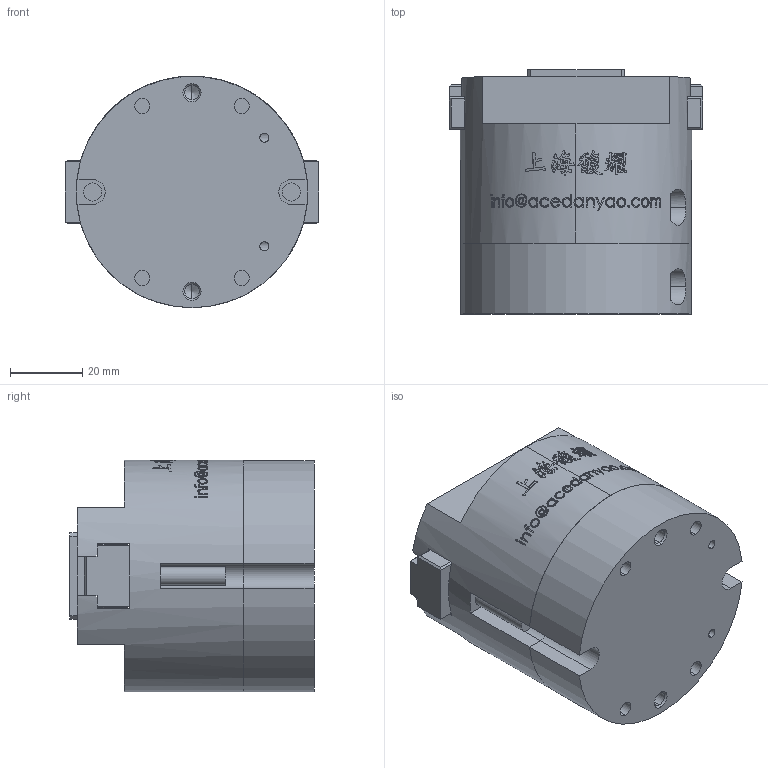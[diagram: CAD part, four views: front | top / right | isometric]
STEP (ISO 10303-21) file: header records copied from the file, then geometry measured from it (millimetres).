
FILE_DESCRIPTION (( 'STEP AP203' ), '1' );
FILE_NAME ('OPM-064-C2-MC&MA-原始檔-組合-W106.04.18.STEP', '2017-04-18T05:33:39', ( 'DanyaoCAD' ), ( '' ), 'SwSTEP 2.0', 'SolidWorks 2016', '' );
FILE_SCHEMA (( 'CONFIG_CONTROL_DESIGN' ));
Length unit declared in the file: millimetre
Products named in the file (4): Corpo; Griffa; Fondello; OPM-064-C2-MC&MA-原始檔-組合-W106.04.18
Assembly tree (4 placements, depth 2):
  OPM-064-C2-MC&MA-原始檔-組合-W106.04.18
    Corpo
    Griffa  x2
    Fondello
Bounding box: 70 x 67.5 x 64 mm (x, y, z)
Volume: 187809.5 mm3; surface area: 39172 mm2
Topology: 4 solids, 4 shells, 1004 faces, 2769 edges, 1822 vertices
Faces by surface type: bspline 665, plane 197, cylinder 114, cone 28
Entity records: 87582 total; most frequent: CARTESIAN_POINT 68518, ORIENTED_EDGE 5290, EDGE_CURVE 2645, B_SPLINE_CURVE_WITH_KNOTS 2039, VERTEX_POINT 1754, DIRECTION 1409, EDGE_LOOP 1039, ADVANCED_FACE 959
